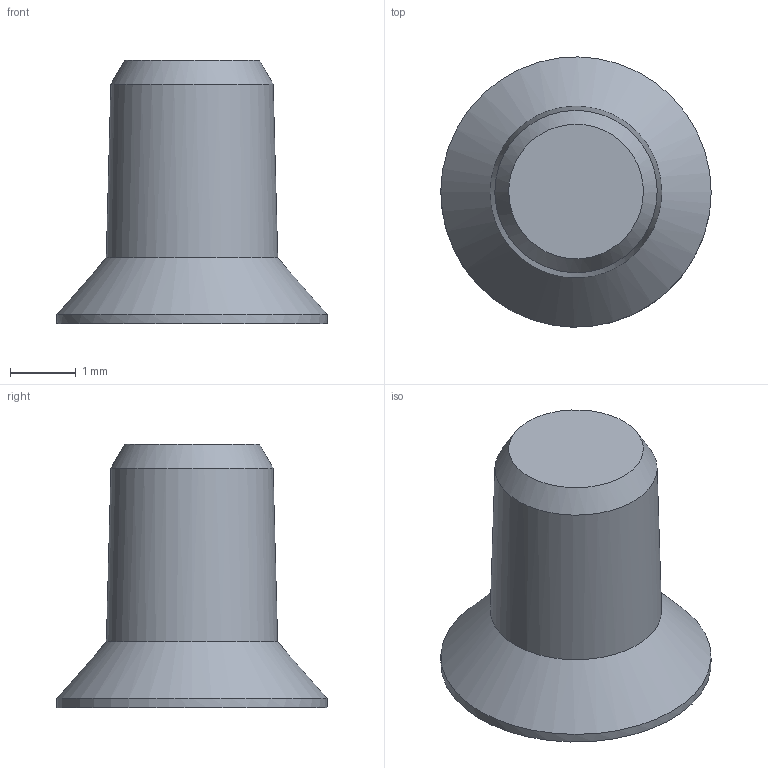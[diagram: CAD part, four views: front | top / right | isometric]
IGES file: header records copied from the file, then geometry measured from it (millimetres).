
Start section: C
Global section: file name: 023-70H-03.igs; native system: By Siemens PLM Incorporated; preprocessor: XPlus GENERIC/IGES 23.0.61; author: Author; organization: Title; date: 20240422.085046; units: millimetre
Bounding box: 4.1 x 4.1 x 4 mm (x, y, z)
Volume: 23.2 mm3; surface area: 59.1 mm2
Topology: 1 solids, 1 shells, 23 faces, 60 edges, 40 vertices
Faces by surface type: bspline 23
